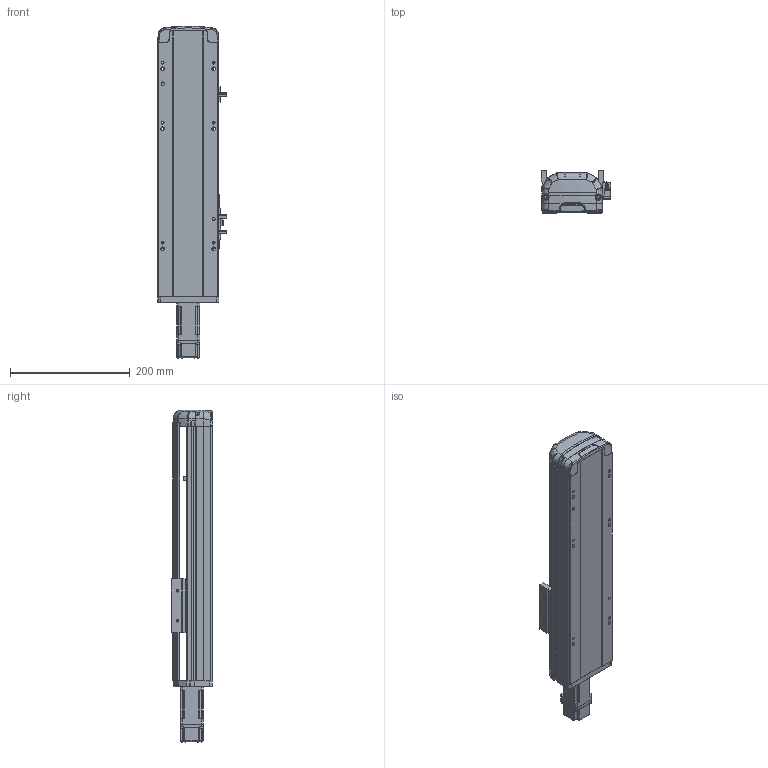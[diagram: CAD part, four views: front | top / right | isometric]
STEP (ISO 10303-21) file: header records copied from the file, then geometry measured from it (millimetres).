
FILE_DESCRIPTION (( 'STEP AP214' ), '1' );
FILE_NAME ('RTH10-XX-200-E-M10-C4.STEP', '2025-10-25T05:21:34', ( 'Microsoft' ), ( 'Microsoft' ), 'SwSTEP 2.0', 'SolidWorks 2018', '' );
FILE_SCHEMA (( 'AUTOMOTIVE_DESIGN' ));
Length unit declared in the file: millimetre
Products named in the file (9): N_P10^RTH10-XX-XX-E-M10-C4; N_RTH12-E-008-M10萇儂啣^RTH10-XX-XX-E-M10-C4; N_RTH12-GY-001P^RTH10-XX-XX-E-M10-C4; N_RTH13-L-012覜茼え俋离^RTH10-XX-XX-E-M10-C4; N_RTH12-GY-004-賑釱^RTH10-XX-XX-E-M10-C4; N_RTH12-E-011P-臏倰第菁釱^RTH10-XX-XX-E-M10-C4; RTH10-XX-200-E-M10-C4; N_RTH12-E-007P-奻裔^RTH10-XX-XX-E-M10-C4; N_OMRON EE-SX672 传感器^RTH10-XX-XX-E-M10-C4
Assembly tree (10 placements, depth 2):
  RTH10-XX-200-E-M10-C4
    N_RTH12-E-011P-臏倰第菁釱^RTH10-XX-XX-E-M10-C4
    N_RTH13-L-012覜茼え俋离^RTH10-XX-XX-E-M10-C4
    N_OMRON EE-SX672 传感器^RTH10-XX-XX-E-M10-C4  x3
    N_P10^RTH10-XX-XX-E-M10-C4
    N_RTH12-E-007P-奻裔^RTH10-XX-XX-E-M10-C4
    N_RTH12-E-008-M10萇儂啣^RTH10-XX-XX-E-M10-C4
    N_RTH12-GY-001P^RTH10-XX-XX-E-M10-C4
    N_RTH12-GY-004-賑釱^RTH10-XX-XX-E-M10-C4
Bounding box: 116.5 x 70 x 553.34 mm (x, y, z)
Volume: 1989765.8 mm3; surface area: 343292.4 mm2
Topology: 9 solids, 11 shells, 1912 faces, 5299 edges, 3474 vertices
Faces by surface type: plane 964, bspline 472, cylinder 441, cone 33, torus 2
Entity records: 56995 total; most frequent: CARTESIAN_POINT 22814, ORIENTED_EDGE 7678, DIRECTION 5863, EDGE_CURVE 3845, VERTEX_POINT 2518, VECTOR 2049, LINE 2049, AXIS2_PLACEMENT_3D 1907
